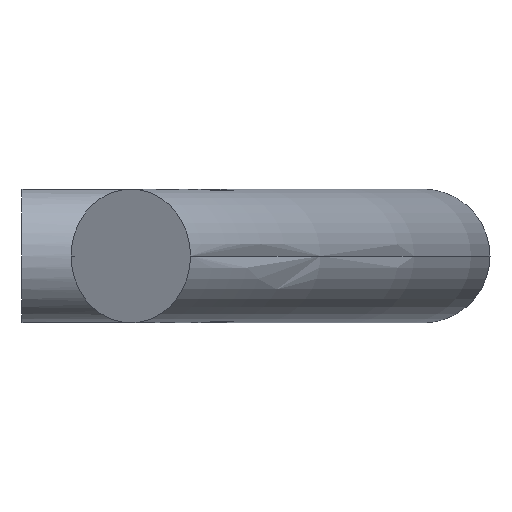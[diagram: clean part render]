
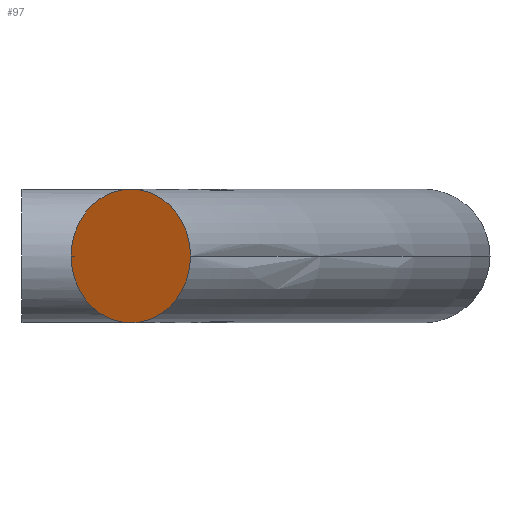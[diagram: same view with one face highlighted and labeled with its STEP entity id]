
A CAD part, left-side view. The second image highlights one B-rep face of the part: STEP entity #97.
In plain terms, the highlighted planar face has unit normal (-0.893, 0.449, 0).
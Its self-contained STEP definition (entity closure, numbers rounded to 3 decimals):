
#97 = ADVANCED_FACE( '', ( #146 ), #147, .F. );
#146 = FACE_OUTER_BOUND( '', #196, .T. );
#147 = PLANE( '', #197 );
#196 = EDGE_LOOP( '', ( #384, #385, #386 ) );
#197 = AXIS2_PLACEMENT_3D( '', #387, #388, #389 );
#384 = ORIENTED_EDGE( '', *, *, #445, .F. );
#385 = ORIENTED_EDGE( '', *, *, #444, .F. );
#386 = ORIENTED_EDGE( '', *, *, #413, .F. );
#387 = CARTESIAN_POINT( '', ( -9.704, -6.511, 0. ) );
#388 = DIRECTION( '', ( 0.893, -0.449, 0. ) );
#389 = DIRECTION( '', ( 0., 0., -1. ) );
#413 = EDGE_CURVE( '', #491, #471, #493, .T. );
#444 = EDGE_CURVE( '', #471, #544, #545, .T. );
#445 = EDGE_CURVE( '', #544, #491, #546, .T. );
#471 = VERTEX_POINT( '', #635 );
#491 = VERTEX_POINT( '', #741 );
#493 = CIRCLE( '', #743, 4. );
#544 = VERTEX_POINT( '', #898 );
#545 = CIRCLE( '', #899, 4. );
#546 = CIRCLE( '', #900, 4. );
#635 = CARTESIAN_POINT( '', ( -11.502, -10.084, 0. ) );
#741 = CARTESIAN_POINT( '', ( -7.907, -2.937, 0. ) );
#743 = AXIS2_PLACEMENT_3D( '', #987, #988, #989 );
#898 = CARTESIAN_POINT( '', ( -9.704, -6.511, -4. ) );
#899 = AXIS2_PLACEMENT_3D( '', #1046, #1047, #1048 );
#900 = AXIS2_PLACEMENT_3D( '', #1049, #1050, #1051 );
#987 = CARTESIAN_POINT( '', ( -9.704, -6.511, 0. ) );
#988 = DIRECTION( '', ( 0.893, -0.449, 0. ) );
#989 = DIRECTION( '', ( 0., 0., -1. ) );
#1046 = CARTESIAN_POINT( '', ( -9.704, -6.511, 0. ) );
#1047 = DIRECTION( '', ( 0.893, -0.449, 0. ) );
#1048 = DIRECTION( '', ( 0., 0., -1. ) );
#1049 = CARTESIAN_POINT( '', ( -9.704, -6.511, 0. ) );
#1050 = DIRECTION( '', ( 0.893, -0.449, 0. ) );
#1051 = DIRECTION( '', ( 0., 0., -1. ) );
